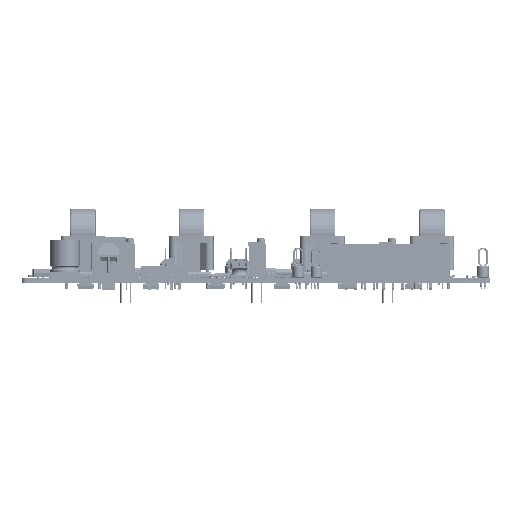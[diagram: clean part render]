
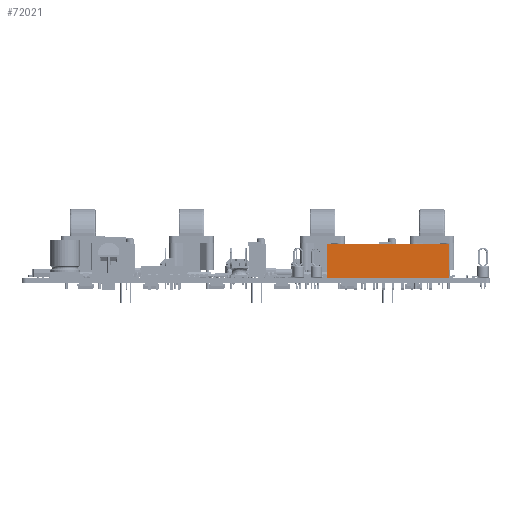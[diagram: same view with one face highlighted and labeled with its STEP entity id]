
A CAD part, left-side view. The second image highlights one B-rep face of the part: STEP entity #72021.
In plain terms, the highlighted planar face has unit normal (-1, 0, 0) as drawn and (0, 1, 0) by its records, which use the part's own axes.
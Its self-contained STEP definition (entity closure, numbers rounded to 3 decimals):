
#67469 = VERTEX_POINT('',#67470);
#67470 = CARTESIAN_POINT('',(-16.51,4.4,0.));
#67476 = EDGE_CURVE('',#67469,#67477,#67479,.T.);
#67477 = VERTEX_POINT('',#67478);
#67478 = CARTESIAN_POINT('',(16.51,4.4,0.));
#67479 = LINE('',#67480,#67481);
#67480 = CARTESIAN_POINT('',(0.,4.4,0.));
#67481 = VECTOR('',#67482,1.);
#67482 = DIRECTION('',(1.,0.,0.));
#71941 = VERTEX_POINT('',#71942);
#71942 = CARTESIAN_POINT('',(16.51,4.4,9.));
#71948 = EDGE_CURVE('',#71941,#71949,#71951,.T.);
#71949 = VERTEX_POINT('',#71950);
#71950 = CARTESIAN_POINT('',(-16.51,4.4,9.));
#71951 = LINE('',#71952,#71953);
#71952 = CARTESIAN_POINT('',(0.,4.4,9.));
#71953 = VECTOR('',#71954,1.);
#71954 = DIRECTION('',(-1.,0.,0.));
#72008 = EDGE_CURVE('',#71949,#67469,#72009,.T.);
#72009 = LINE('',#72010,#72011);
#72010 = CARTESIAN_POINT('',(-16.51,4.4,4.5));
#72011 = VECTOR('',#72012,1.);
#72012 = DIRECTION('',(0.,0.,-1.));
#72021 = ADVANCED_FACE('',(#72022),#72033,.F.);
#72022 = FACE_BOUND('',#72023,.T.);
#72023 = EDGE_LOOP('',(#72024,#72030,#72031,#72032));
#72024 = ORIENTED_EDGE('',*,*,#72025,.T.);
#72025 = EDGE_CURVE('',#71941,#67477,#72026,.T.);
#72026 = LINE('',#72027,#72028);
#72027 = CARTESIAN_POINT('',(16.51,4.4,4.5));
#72028 = VECTOR('',#72029,1.);
#72029 = DIRECTION('',(0.,0.,-1.));
#72030 = ORIENTED_EDGE('',*,*,#67476,.F.);
#72031 = ORIENTED_EDGE('',*,*,#72008,.F.);
#72032 = ORIENTED_EDGE('',*,*,#71948,.F.);
#72033 = PLANE('',#72034);
#72034 = AXIS2_PLACEMENT_3D('',#72035,#72036,#72037);
#72035 = CARTESIAN_POINT('',(0.,4.4,4.5));
#72036 = DIRECTION('',(0.,-1.,0.));
#72037 = DIRECTION('',(0.,0.,-1.));
